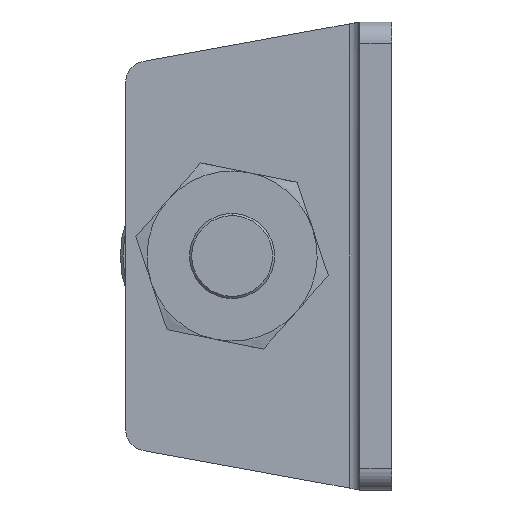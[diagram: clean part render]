
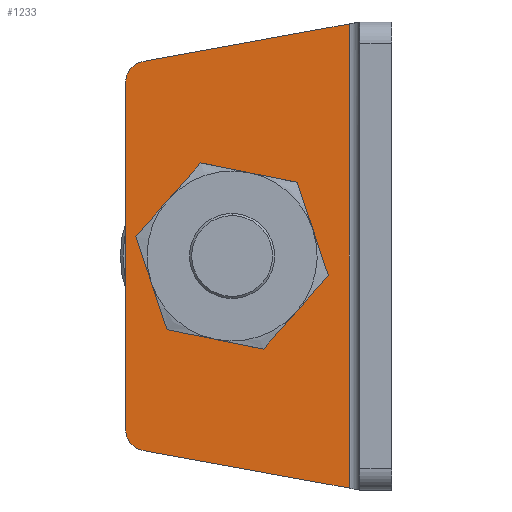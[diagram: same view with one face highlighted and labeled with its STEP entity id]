
A CAD part, left-side view. The second image highlights one B-rep face of the part: STEP entity #1233.
In plain terms, the highlighted planar face has unit normal (-1, 0, 0).
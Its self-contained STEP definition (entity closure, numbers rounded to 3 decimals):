
#6 = DIRECTION ( 'NONE',  ( 0., 1., 0. ) ) ;
#13 = EDGE_CURVE ( 'NONE', #2400, #2889, #1903, .T. ) ;
#41 = EDGE_CURVE ( 'NONE', #2889, #1587, #710, .T. ) ;
#194 = CARTESIAN_POINT ( 'NONE',  ( -3., 15., 0. ) ) ;
#215 = DIRECTION ( 'NONE',  ( 0., 1., 0. ) ) ;
#253 = AXIS2_PLACEMENT_3D ( 'NONE', #2911, #501, #3120 ) ;
#270 = DIRECTION ( 'NONE',  ( 1., 0., 0. ) ) ;
#303 = CARTESIAN_POINT ( 'NONE',  ( -3., 4., 22. ) ) ;
#312 = VECTOR ( 'NONE', #751, 1000. ) ;
#335 = ORIENTED_EDGE ( 'NONE', *, *, #41, .T. ) ;
#436 = CIRCLE ( 'NONE', #2864, 2. ) ;
#490 = VERTEX_POINT ( 'NONE', #3043 ) ;
#501 = DIRECTION ( 'NONE',  ( -1., 0., 0. ) ) ;
#551 = CARTESIAN_POINT ( 'NONE',  ( -3., 25., 22. ) ) ;
#557 = CARTESIAN_POINT ( 'NONE',  ( -3., 3.968, 21.824 ) ) ;
#595 = VERTEX_POINT ( 'NONE', #2737 ) ;
#613 = CARTESIAN_POINT ( 'NONE',  ( -3., 25., 16.331 ) ) ;
#710 = LINE ( 'NONE', #551, #1300 ) ;
#751 = DIRECTION ( 'NONE',  ( 0., 0., -1. ) ) ;
#801 = ORIENTED_EDGE ( 'NONE', *, *, #1396, .T. ) ;
#865 = DIRECTION ( 'NONE',  ( 0., 0.984, -0.179 ) ) ;
#869 = CARTESIAN_POINT ( 'NONE',  ( -3., 4., 21.818 ) ) ;
#875 = CARTESIAN_POINT ( 'NONE',  ( -3., 15., 4. ) ) ;
#914 = CIRCLE ( 'NONE', #1201, 4. ) ;
#973 = AXIS2_PLACEMENT_3D ( 'NONE', #1043, #2054, #1243 ) ;
#1028 = ORIENTED_EDGE ( 'NONE', *, *, #1443, .F. ) ;
#1043 = CARTESIAN_POINT ( 'NONE',  ( -3., 15., 0. ) ) ;
#1044 = CARTESIAN_POINT ( 'NONE',  ( -3., 15., -4. ) ) ;
#1201 = AXIS2_PLACEMENT_3D ( 'NONE', #194, #3020, #1798 ) ;
#1213 = CARTESIAN_POINT ( 'NONE',  ( -3., 23., -16.331 ) ) ;
#1233 = ADVANCED_FACE ( 'NONE', ( #2618, #2060 ), #1253, .F. ) ;
#1243 = DIRECTION ( 'NONE',  ( 0., 1., 0. ) ) ;
#1253 = PLANE ( 'NONE',  #2379 ) ;
#1269 = EDGE_CURVE ( 'NONE', #490, #595, #2206, .T. ) ;
#1281 = VERTEX_POINT ( 'NONE', #875 ) ;
#1294 = LINE ( 'NONE', #557, #2812 ) ;
#1300 = VECTOR ( 'NONE', #2341, 1000. ) ;
#1379 = ORIENTED_EDGE ( 'NONE', *, *, #13, .T. ) ;
#1396 = EDGE_CURVE ( 'NONE', #2842, #2400, #1294, .T. ) ;
#1421 = ORIENTED_EDGE ( 'NONE', *, *, #1711, .T. ) ;
#1443 = EDGE_CURVE ( 'NONE', #2842, #595, #1838, .T. ) ;
#1515 = ORIENTED_EDGE ( 'NONE', *, *, #1269, .T. ) ;
#1587 = VERTEX_POINT ( 'NONE', #2193 ) ;
#1689 = ORIENTED_EDGE ( 'NONE', *, *, #2906, .T. ) ;
#1711 = EDGE_CURVE ( 'NONE', #1281, #2874, #2716, .T. ) ;
#1770 = DIRECTION ( 'NONE',  ( -1., 0., 0. ) ) ;
#1798 = DIRECTION ( 'NONE',  ( 0., 1., 0. ) ) ;
#1838 = LINE ( 'NONE', #303, #312 ) ;
#1903 = CIRCLE ( 'NONE', #253, 2. ) ;
#1932 = CARTESIAN_POINT ( 'NONE',  ( -3., 23.358, 18.299 ) ) ;
#1968 = VECTOR ( 'NONE', #2925, 1000. ) ;
#2054 = DIRECTION ( 'NONE',  ( 1., 0., 0. ) ) ;
#2060 = FACE_OUTER_BOUND ( 'NONE', #2077, .T. ) ;
#2077 = EDGE_LOOP ( 'NONE', ( #801, #1379, #335, #2525, #1515, #1028 ) ) ;
#2193 = CARTESIAN_POINT ( 'NONE',  ( -3., 25., -16.331 ) ) ;
#2206 = LINE ( 'NONE', #3028, #1968 ) ;
#2341 = DIRECTION ( 'NONE',  ( 0., 0., -1. ) ) ;
#2379 = AXIS2_PLACEMENT_3D ( 'NONE', #3030, #270, #6 ) ;
#2400 = VERTEX_POINT ( 'NONE', #1932 ) ;
#2525 = ORIENTED_EDGE ( 'NONE', *, *, #3012, .T. ) ;
#2618 = FACE_BOUND ( 'NONE', #2746, .T. ) ;
#2716 = CIRCLE ( 'NONE', #973, 4. ) ;
#2737 = CARTESIAN_POINT ( 'NONE',  ( -3., 4., -21.818 ) ) ;
#2746 = EDGE_LOOP ( 'NONE', ( #1421, #1689 ) ) ;
#2812 = VECTOR ( 'NONE', #865, 1000. ) ;
#2842 = VERTEX_POINT ( 'NONE', #869 ) ;
#2864 = AXIS2_PLACEMENT_3D ( 'NONE', #1213, #1770, #215 ) ;
#2874 = VERTEX_POINT ( 'NONE', #1044 ) ;
#2889 = VERTEX_POINT ( 'NONE', #613 ) ;
#2906 = EDGE_CURVE ( 'NONE', #2874, #1281, #914, .T. ) ;
#2911 = CARTESIAN_POINT ( 'NONE',  ( -3., 23., 16.331 ) ) ;
#2925 = DIRECTION ( 'NONE',  ( 0., -0.984, -0.179 ) ) ;
#3012 = EDGE_CURVE ( 'NONE', #1587, #490, #436, .T. ) ;
#3020 = DIRECTION ( 'NONE',  ( 1., 0., 0. ) ) ;
#3028 = CARTESIAN_POINT ( 'NONE',  ( -3., 11.712, -20.416 ) ) ;
#3030 = CARTESIAN_POINT ( 'NONE',  ( -3., 4., 22. ) ) ;
#3043 = CARTESIAN_POINT ( 'NONE',  ( -3., 23.358, -18.299 ) ) ;
#3120 = DIRECTION ( 'NONE',  ( 0., 1., 0. ) ) ;
